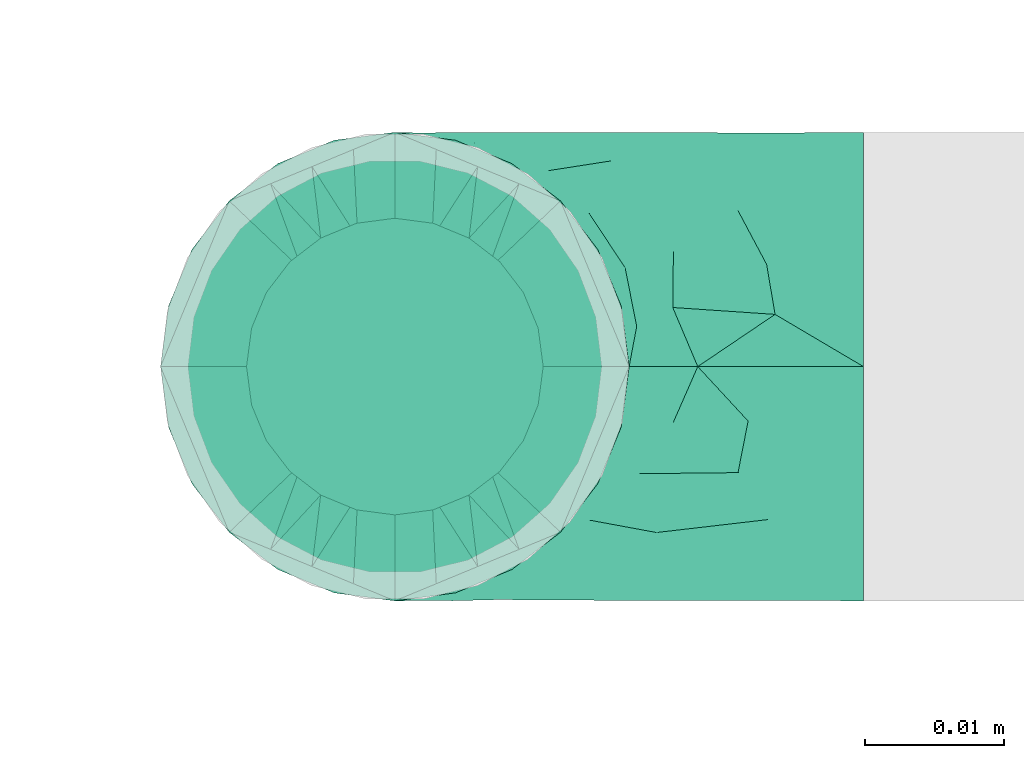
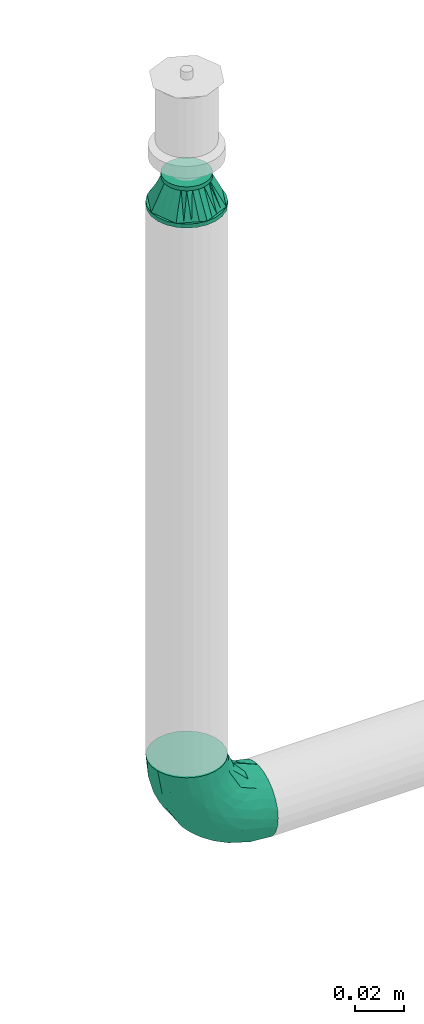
# One storey, part 83 of 157: 2 flow fittings.
"""IFC2X3 building model written with IfcOpenShell, lengths in millimetres."""

from ifc_helpers import new_model, entity, si_unit, converted_unit, derived_unit, direction, frame, origin_with_axes, place, context, subcontext, project, spatial, open_shell, surface_model, source, transform, mapped, type_object, element, save


model = new_model("IFC2X3")

# Units and contexts
model_context = context("Model", 3, precision=0.01, world=frame((0.0, 4.29681676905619e-09, 0.0)), true_north=direction((4.01073788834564e-13, 1.0)))
plan_context = context("Plan", 3, precision=0.01, world=frame((0.0, 4.29681676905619e-09, 0.0)), true_north=direction((4.01073788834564e-13, 1.0)))
body_context = subcontext(model_context, "Body", "Model", "MODEL_VIEW")
ifc_project = project(units=[converted_unit("PLANEANGLEUNIT", "DEGREE", entity("IfcPositiveLengthMeasure", 0.0174532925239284), si_unit("PLANEANGLEUNIT", "RADIAN"), dimensions=[0, 0, 0, 0, 0, 0, 0]), si_unit("AREAUNIT", "SQUARE_METRE"), si_unit("LENGTHUNIT", "METRE", prefix="MILLI"), si_unit("MASSUNIT", "GRAM", prefix="KILO"), si_unit("POWERUNIT", "WATT"), si_unit("PRESSUREUNIT", "PASCAL"), si_unit("FORCEUNIT", "NEWTON", prefix="KILO"), si_unit("ELECTRICCURRENTUNIT", "AMPERE"), si_unit("THERMODYNAMICTEMPERATUREUNIT", "DEGREE_CELSIUS"), si_unit("TIMEUNIT", "SECOND"), si_unit("VOLUMEUNIT", "CUBIC_METRE"), derived_unit("LINEARVELOCITYUNIT", [(si_unit("LENGTHUNIT", "METRE"), 1), (si_unit("TIMEUNIT", "SECOND"), -1)]), derived_unit("VOLUMETRICFLOWRATEUNIT", [(si_unit("VOLUMEUNIT", "CUBIC_METRE"), 1), (si_unit("TIMEUNIT", "SECOND"), -1)]), derived_unit("THERMALTRANSMITTANCEUNIT", [(si_unit("POWERUNIT", "WATT"), 1), (si_unit("THERMODYNAMICTEMPERATUREUNIT", "KELVIN"), -1), (si_unit("AREAUNIT", "SQUARE_METRE"), -1)])], contexts=[model_context, plan_context])

# Site, building, storey
site_placement = place(None, frame((0.0, -4.29681676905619e-09, 0.0), z_axis=(0.0, 0.0, 1.0), x_axis=(1.0, 0.0, 0.0)))
site = spatial("IfcSite", under=ifc_project, at=site_placement, CompositionType="ELEMENT")
building_placement = place(site_placement, frame((0.0, 4.29681676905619e-09, 0.0), z_axis=(0.0, 0.0, 1.0), x_axis=(1.0, 0.0, 0.0)))
building = spatial("IfcBuilding", under=site, at=building_placement, Name="mc-building", CompositionType="ELEMENT")
storey_placement = place(building_placement, frame((0.0, 0.0, 204000.0), z_axis=(0.0, 0.0, 1.0), x_axis=(1.0, 0.0, 0.0)))
storey = spatial("IfcBuildingStorey", under=building, at=storey_placement, Name="Nivå D", CompositionType="ELEMENT", Elevation=204000.0)

# Flow fittings
pipe_fitting_type_1 = type_object("IfcPipeFittingType", Name="magi_pipe_fe_elbow_short_001", PredefinedType="BEND")
shared_shape_1 = source(origin_with_axes(), body_context, "Body", "SurfaceModel", [
    surface_model("IfcShellBasedSurfaceModel", [(-33.8, 8.45, -14.63583), (-33.8, 4.37404, -16.32415), (-33.8, 11.9501, -11.9501), (-33.8, -11.9501, -11.9501), (-33.8, -14.63583, -8.45), (-33.8, -8.45, -14.63583), (-33.8, 0.0, -16.9), (-33.8, -4.37404, -16.32415), (-33.8, -4.37404, 16.32415), (-33.8, 0.0, 16.9), (-33.8, -8.45, 14.63583), (-33.8, 16.32415, -4.37404), (-33.8, 14.63583, -8.45), (-33.8, -16.32415, -4.37404), (-33.8, -16.9, 0.0), (-33.8, -16.32415, 4.37404), (-33.8, 11.9501, 11.9501), (-33.8, 14.63583, 8.45), (-33.8, 16.32415, 4.37404), (-33.8, 4.37404, 16.32415), (-33.8, 8.45, 14.63583), (-33.8, -14.63583, 8.45), (-33.8, -11.9501, 11.9501), (-33.8, 16.9, 0.0), (-11.9501, 33.8, -11.9501), (0.0, 33.8, -16.9), (-4.37404, 33.8, -16.32415), (-8.45, 33.8, -14.63583), (-14.63583, 33.8, -8.45), (-16.32415, 33.8, -4.37404), (14.63583, 33.8, -8.45), (8.45, 33.8, 14.63583), (16.32415, 33.8, -4.37404), (8.45, 33.8, -14.63583), (11.9501, 33.8, -11.9501), (4.37404, 33.8, -16.32415), (16.32415, 33.8, 4.37404), (16.9, 33.8, 0.0), (-11.9501, 33.8, 11.9501), (-16.32415, 33.8, 4.37404), (-14.63583, 33.8, 8.45), (-8.45, 33.8, 14.63583), (-4.37404, 33.8, 16.32415), (11.9501, 33.8, 11.9501), (14.63583, 33.8, 8.45), (0.0, 33.8, 16.9), (4.37404, 33.8, 16.32415), (-16.9, 33.8, 0.0), (-24.79389, -13.12945, 9.48721), (-22.19287, -9.75018, 12.59315), (-24.09897, -14.97035, 0.0), (-14.93934, -10.76256, 8.5297), (-22.46095, -14.75051, 5.27077), (14.75051, 22.46094, 5.27077), (11.9251, 13.23888, 4.33236), (13.04069, 14.39795, 0.0), (7.71387, 13.68847, 11.55891), (9.75018, 22.19287, 12.59315), (4.10169, 13.0571, 14.04018), (-24.84007, -6.39063, 15.2048), (-25.81779, -2.23879, 16.61097), (-23.66549, 2.59054, 16.87119), (-26.50418, 14.06512, 11.08152), (-24.21253, 17.66365, 7.72657), (-29.58514, 15.86957, 7.00283), (-6.17382, -7.5455, 0.0), (-13.23888, -11.9251, 4.33236), (-14.39795, -13.04069, 0.0), (-17.81434, 18.87373, 11.97104), (-6.30846, 29.15138, 15.82987), (-2.31622, 25.28002, 16.85849), (-29.23923, 10.23435, 13.77053), (-1.45439, -2.85688, 7.61475), (-0.28326, 0.34872, 10.09509), (-5.74484, -4.04709, 10.4122), (-4.41137, 11.31918, 16.59407), (-8.39727, 3.10034, 15.7812), (-1.72649, 9.1306, 15.53089), (-17.39909, 24.75344, 7.64977), (-26.19233, 20.0512, 0.0), (-28.14518, 17.29657, 4.25857), (-26.05147, 6.6281, 15.96447), (-5.87354, 16.61944, 16.86968), (-12.51807, 12.51807, 16.48937), (-10.06312, 7.38516, 16.81295), (-3.01882, 3.01882, 13.81718), (-13.0571, -4.10169, 14.04018), (-16.82553, -0.15166, 16.38038), (10.76256, 14.93934, 8.5297), (13.12945, 24.79389, 9.48721), (6.39063, 24.84007, 15.2048), (2.23879, 25.81779, 16.61097), (-13.68847, -7.71387, 11.55891), (14.97035, 24.09897, 0.0), (-7.30894, 22.89991, 16.09489), (-10.67958, 26.17414, 14.008), (-12.78295, 18.26924, 15.06066), (-13.88562, 22.45231, 12.93244), (-18.04944, 15.16501, 14.04434), (-23.11658, 20.08178, 4.02986), (-21.84989, 21.84989, 0.0), (-18.55817, 25.48277, 3.93065), (-13.95142, 26.94732, 11.03289), (-18.57098, 7.23906, 16.59756), (-16.58335, 4.14122, 16.89279), (-17.96666, 11.46709, 15.63151), (-9.84453, 17.54304, 16.18938), (0.15166, 16.82553, 16.38038), (-23.27207, 11.47201, 14.23154), (3.84842, 5.86994, 10.70473), (-8.0212, -7.54413, 7.93275), (1.00345, -2.19508, 4.57414), (5.13203, 3.01004, 5.90201), (5.24161, 1.7543, 2.53265), (8.70457, 7.04947, 3.99182), (-20.0512, 26.19233, 0.0), (8.4852, 8.76699, 7.09296), (-4.55488, -6.72064, 4.90681), (2.05031, -2.05031, 0.0), (7.5455, 6.17382, 0.0), (-26.75399, 2.1369, -16.845), (-14.61995, 24.73803, -11.27736), (-28.45274, -13.45335, -9.81895), (-26.00469, 6.63555, -15.96645), (-23.06726, 20.04573, -4.26202), (-13.80647, -4.26506, -14.17873), (-14.67501, -0.21081, -16.07388), (-6.7902, -0.2828, -13.8478), (-24.53586, 11.08096, -14.13417), (-26.72048, 14.00837, -11.05776), (10.0967, 24.44989, -12.75976), (5.83237, 21.40218, -15.03047), (6.66249, 28.54238, -15.38093), (-20.38182, 15.48705, -12.74596), (12.53268, 21.23441, -9.15363), (12.54494, 15.67504, -5.54878), (9.7522, 12.89279, -8.66343), (-15.65186, 19.64213, -13.01327), (-12.03528, 20.66498, -14.67665), (-15.61907, 15.61906, -14.83879), (-25.56551, -15.26206, 0.0), (-24.65452, -15.12934, -5.50955), (13.45335, 28.45274, -9.81895), (15.12934, 24.65452, -5.50955), (-7.35442, -8.31014, -5.65563), (-15.67504, -12.54494, -5.54878), (-24.44989, -10.0967, -12.75976), (0.16522, 0.41303, -9.71728), (-5.70658, -5.33066, -8.89288), (-5.13869, -2.37198, -11.53565), (-21.23441, -12.53268, -9.15363), (0.71146, 7.93863, -14.09382), (0.21081, 14.67501, -16.07388), (3.49291, 14.42772, -14.76381), (-24.89911, -2.13088, -16.591), (-28.54238, -6.66249, -15.38093), (-18.44386, -7.71663, -13.26957), (2.13088, 24.89911, -16.591), (-28.64342, 17.44413, -2.89318), (1.70017, -1.28722, -5.09504), (-16.57067, 26.81947, -7.36596), (-17.69055, 27.4263, -3.76405), (-12.89279, -9.7522, -8.66343), (-5.96611, 5.96611, -15.95814), (-20.53709, 20.09345, -8.28985), (-2.1369, 26.75399, -16.845), (-6.89872, 24.58781, -16.02578), (-10.60739, 26.53157, -13.98044), (-21.40218, -5.83237, -15.03047), (2.93192, 5.89627, -11.55917), (6.89393, 12.61842, -11.82233), (5.58056, 5.95325, -8.79455), (-3.99512, 18.61798, -16.89635), (8.31014, 7.35442, -5.65563), (-9.1383, 9.86148, -16.89041), (-9.99983, 16.02119, -16.39699), (-16.68576, 9.78031, -16.34199), (-27.01915, 16.61158, -7.12979), (15.26206, 25.56551, 0.0), (-18.61798, 3.99512, -16.89635), (-19.37495, 27.82495, 0.0), (-12.61842, -6.89393, -11.82233), (-18.84705, 19.14018, -10.96545)], [open_shell([[[0, 1, 2]], [[3, 4, 5]], [[6, 7, 5]], [[8, 9, 10]], [[1, 6, 2]], [[11, 12, 2]], [[4, 2, 6]], [[2, 13, 10]], [[5, 4, 6]], [[2, 4, 13]], [[14, 15, 13]], [[11, 2, 16]], [[11, 17, 18]], [[11, 16, 17]], [[19, 20, 16]], [[16, 2, 10]], [[19, 16, 10]], [[21, 22, 15]], [[22, 13, 15]], [[22, 10, 13]], [[10, 9, 19]], [[11, 18, 23]], [[24, 25, 26]], [[24, 26, 27]], [[24, 28, 29]], [[25, 24, 30]], [[31, 32, 24]], [[33, 30, 34]], [[33, 35, 25]], [[25, 30, 33]], [[32, 30, 24]], [[32, 36, 37]], [[38, 24, 29]], [[39, 40, 29]], [[40, 38, 29]], [[38, 41, 42]], [[38, 31, 24]], [[31, 38, 42]], [[36, 43, 44]], [[36, 32, 43]], [[31, 45, 46]], [[32, 31, 43]], [[42, 45, 31]], [[39, 29, 47]], [[22, 48, 49]], [[15, 14, 50]], [[51, 48, 52]], [[53, 54, 55]], [[48, 22, 21]], [[15, 52, 21]], [[56, 57, 58]], [[49, 10, 22]], [[49, 59, 10]], [[9, 60, 61]], [[62, 63, 64]], [[65, 66, 67]], [[57, 43, 31]], [[62, 68, 63]], [[42, 69, 70]], [[20, 71, 16]], [[8, 60, 9]], [[72, 73, 74]], [[75, 76, 77]], [[16, 62, 17]], [[40, 39, 78]], [[79, 23, 80]], [[64, 18, 17]], [[9, 61, 19]], [[19, 81, 20]], [[82, 83, 84]], [[74, 85, 86]], [[59, 86, 87]], [[88, 89, 57]], [[90, 31, 46]], [[44, 53, 36]], [[46, 45, 91]], [[54, 53, 88]], [[44, 89, 53]], [[92, 86, 49]], [[89, 44, 43]], [[10, 59, 8]], [[53, 55, 93]], [[93, 36, 53]], [[66, 52, 67]], [[94, 82, 70]], [[95, 96, 94]], [[97, 98, 96]], [[79, 99, 100]], [[41, 38, 95]], [[101, 100, 99]], [[68, 78, 63]], [[42, 41, 69]], [[23, 18, 80]], [[95, 94, 69]], [[78, 101, 99]], [[38, 102, 95]], [[70, 45, 42]], [[97, 95, 102]], [[15, 50, 52]], [[90, 57, 31]], [[57, 90, 58]], [[81, 19, 61]], [[103, 104, 84]], [[105, 81, 103]], [[38, 40, 102]], [[106, 96, 83]], [[94, 106, 82]], [[91, 70, 107]], [[71, 62, 16]], [[62, 108, 98]], [[86, 59, 49]], [[67, 52, 50]], [[60, 59, 87]], [[92, 49, 51]], [[86, 85, 76]], [[91, 90, 46]], [[37, 36, 93]], [[107, 77, 58]], [[107, 58, 90]], [[58, 85, 109]], [[110, 74, 92]], [[72, 74, 110]], [[66, 51, 52]], [[72, 111, 112]], [[113, 114, 112]], [[56, 88, 57]], [[52, 48, 21]], [[49, 48, 51]], [[57, 89, 43]], [[53, 89, 88]], [[103, 81, 61]], [[71, 81, 108]], [[18, 64, 80]], [[63, 78, 99]], [[47, 115, 101]], [[101, 115, 100]], [[40, 78, 102]], [[68, 102, 78]], [[97, 96, 95]], [[105, 98, 108]], [[103, 84, 83]], [[107, 70, 82]], [[76, 84, 87]], [[82, 84, 75]], [[70, 91, 45]], [[90, 91, 107]], [[59, 60, 8]], [[61, 60, 87]], [[73, 85, 74]], [[109, 112, 116]], [[103, 61, 104]], [[105, 103, 83]], [[96, 105, 83]], [[81, 105, 108]], [[96, 98, 105]], [[62, 98, 68]], [[61, 87, 104]], [[87, 84, 104]], [[86, 76, 87]], [[77, 76, 85]], [[58, 77, 85]], [[75, 77, 107]], [[82, 75, 107]], [[76, 75, 84]], [[81, 71, 20]], [[62, 71, 108]], [[95, 69, 41]], [[70, 69, 94]], [[62, 64, 17]], [[80, 63, 99]], [[63, 80, 64]], [[80, 99, 79]], [[66, 65, 117]], [[110, 66, 117]], [[112, 114, 116]], [[118, 117, 65]], [[110, 92, 51]], [[112, 111, 113]], [[119, 55, 54]], [[74, 86, 92]], [[58, 109, 56]], [[116, 56, 109]], [[66, 110, 51]], [[72, 110, 117]], [[111, 72, 117]], [[73, 112, 109]], [[117, 118, 111]], [[113, 111, 118]], [[118, 119, 113]], [[114, 119, 54]], [[119, 114, 113]], [[116, 54, 88]], [[54, 116, 114]], [[116, 88, 56]], [[112, 73, 72]], [[85, 73, 109]], [[78, 39, 101]], [[47, 101, 39]], [[102, 68, 97]], [[97, 68, 98]], [[82, 106, 83]], [[94, 96, 106]], [[1, 120, 6]], [[28, 24, 121]], [[3, 122, 4]], [[0, 123, 1]], [[100, 124, 79]], [[125, 126, 127]], [[128, 2, 129]], [[130, 131, 132]], [[128, 129, 133]], [[134, 135, 136]], [[137, 138, 139]], [[128, 0, 2]], [[67, 140, 141]], [[134, 142, 143]], [[141, 13, 4]], [[144, 65, 145]], [[146, 3, 5]], [[147, 148, 149]], [[145, 141, 150]], [[151, 152, 153]], [[154, 7, 6]], [[5, 155, 146]], [[150, 146, 156]], [[155, 5, 7]], [[143, 135, 134]], [[35, 157, 25]], [[23, 79, 158]], [[148, 159, 144]], [[160, 161, 29]], [[145, 162, 144]], [[163, 152, 151]], [[29, 28, 160]], [[121, 164, 160]], [[33, 34, 130]], [[25, 165, 26]], [[26, 165, 166]], [[142, 34, 30]], [[24, 27, 167]], [[124, 161, 164]], [[157, 35, 132]], [[155, 154, 168]], [[123, 0, 128]], [[169, 170, 171]], [[172, 157, 152]], [[26, 166, 27]], [[132, 35, 33]], [[142, 130, 34]], [[168, 154, 126]], [[136, 135, 173]], [[133, 137, 139]], [[2, 12, 129]], [[170, 131, 130]], [[30, 32, 143]], [[172, 174, 175]], [[176, 123, 128]], [[158, 177, 11]], [[135, 55, 119]], [[167, 27, 166]], [[175, 166, 172]], [[137, 167, 138]], [[122, 141, 4]], [[140, 14, 13]], [[32, 37, 178]], [[170, 130, 134]], [[152, 157, 131]], [[165, 157, 172]], [[153, 170, 151]], [[152, 163, 174]], [[168, 125, 156]], [[122, 146, 150]], [[120, 154, 6]], [[179, 174, 126]], [[179, 126, 154]], [[126, 163, 127]], [[162, 145, 150]], [[140, 13, 141]], [[32, 178, 143]], [[55, 143, 178]], [[177, 129, 12]], [[128, 133, 139]], [[176, 128, 139]], [[120, 123, 179]], [[121, 160, 28]], [[161, 100, 180]], [[166, 175, 138]], [[121, 24, 167]], [[161, 47, 29]], [[79, 124, 158]], [[124, 164, 177]], [[161, 124, 100]], [[136, 171, 170]], [[127, 163, 151]], [[147, 171, 159]], [[148, 144, 162]], [[127, 151, 169]], [[127, 181, 125]], [[129, 177, 164]], [[12, 11, 177]], [[159, 65, 144]], [[67, 141, 145]], [[143, 55, 135]], [[135, 119, 173]], [[123, 120, 1]], [[154, 120, 179]], [[157, 165, 25]], [[166, 165, 172]], [[172, 152, 174]], [[176, 139, 175]], [[126, 174, 163]], [[176, 174, 179]], [[174, 176, 175]], [[123, 176, 179]], [[150, 181, 162]], [[127, 149, 181]], [[181, 148, 162]], [[159, 148, 147]], [[171, 136, 173]], [[170, 134, 136]], [[159, 171, 173]], [[171, 147, 169]], [[169, 147, 149]], [[151, 170, 169]], [[164, 182, 129]], [[182, 121, 137]], [[181, 149, 148]], [[169, 149, 127]], [[182, 137, 133]], [[167, 137, 121]], [[166, 138, 167]], [[175, 139, 138]], [[129, 182, 133]], [[121, 182, 164]], [[161, 160, 164]], [[47, 161, 180]], [[177, 158, 124]], [[23, 158, 11]], [[130, 132, 33]], [[157, 132, 131]], [[143, 142, 30]], [[130, 142, 134]], [[154, 155, 7]], [[146, 155, 168]], [[146, 122, 3]], [[141, 122, 150]], [[152, 131, 153]], [[159, 119, 118]], [[67, 145, 65]], [[170, 153, 131]], [[119, 159, 173]], [[159, 118, 65]], [[156, 125, 181]], [[126, 125, 168]], [[150, 156, 181]], [[168, 156, 146]]])]),
])
flow_fitting_1_placement = place(storey_placement, frame((522835.35, 413944.735, 2690.0), z_axis=(0.0, -1.0, 0.0), x_axis=(0.0, 0.0, -1.0)))
element("IfcFlowFitting", 1, at=flow_fitting_1_placement, inside=storey, type_object=pipe_fitting_type_1, Name="magi_pipe_fe_elbow_short_001", context=body_context, shape_type="MappedRepresentation", body=[
    mapped(shared_shape_1, transform((0.0, 0.0, 0.0), scale=1.0)),
])
pipe_fitting_type_2 = type_object("IfcPipeFittingType", Name="magi_pipe_fe_reducer_centric_short_NOR", PredefinedType="TRANSITION")
shared_shape_2 = source(origin_with_axes(), body_context, "Body", "SurfaceModel", [
    surface_model("IfcShellBasedSurfaceModel", [(-2.0, -7.56604, -7.56604), (-2.0, -10.33541, -2.76936), (-2.0, -5.35, -9.26647), (-2.0, 5.35, -9.26647), (-2.0, 10.33541, -2.76936), (-2.0, 7.56604, -7.56604), (12.4, 11.9501, 11.9501), (12.4, 0.0, 16.9), (12.4, 11.9501, -11.9501), (12.4, 16.9, 0.0), (0.0, -10.7, 0.0), (0.0, -5.35, 9.26647), (0.0, -5.35, -9.26647), (0.0, 10.7, 0.0), (12.4, 15.66253, -2.98753), (12.4, 8.96258, -13.18758), (0.0, 6.6875, -6.94985), (12.4, -15.66253, -2.98753), (12.4, -16.9, 0.0), (12.4, 5.97505, -14.42505), (0.0, 5.35, -9.26647), (12.4, 14.42505, -5.97505), (0.0, 8.025, -4.63324), (0.0, 9.3625, -2.31662), (0.0, -9.3625, -2.31662), (0.0, -8.025, -4.63324), (12.4, -14.42505, -5.97505), (12.4, 13.18758, -8.96258), (12.4, -13.18758, -8.96258), (12.4, -11.9501, -11.9501), (0.0, -6.6875, -6.94985), (12.4, -8.96258, -13.18758), (12.4, -5.97505, -14.42505), (12.4, -15.66253, 2.98753), (12.4, -8.96258, 13.18758), (0.0, -6.6875, 6.94985), (12.4, -11.9501, 11.9501), (12.4, 15.66253, 2.98753), (12.4, -5.97505, 14.42505), (12.4, -14.42505, 5.97505), (0.0, -8.025, 4.63324), (0.0, -9.3625, 2.31662), (0.0, 9.3625, 2.31662), (0.0, 8.025, 4.63324), (12.4, 14.42505, 5.97505), (12.4, -13.18758, 8.96258), (12.4, 13.18758, 8.96258), (0.0, 6.6875, 6.94985), (12.4, 8.96258, 13.18758), (0.0, 5.35, 9.26647), (12.4, 5.97505, 14.42505), (14.4, 4.37404, -16.32415), (14.4, 8.45, -14.63583), (14.4, 11.9501, -11.9501), (14.4, -8.45, -14.63583), (14.4, 16.32415, -4.37404), (14.4, 16.32415, 4.37404), (14.4, 14.63583, -8.45), (14.4, 0.0, -16.9), (14.4, -4.37404, -16.32415), (14.4, -11.9501, -11.9501), (14.4, -16.32415, -4.37404), (14.4, -14.63583, -8.45), (14.4, -16.32415, 4.37404), (14.4, 16.9, 0.0), (14.4, 14.63583, 8.45), (14.4, 11.9501, 11.9501), (14.4, 4.37404, 16.32415), (14.4, 8.45, 14.63583), (14.4, 0.0, 16.9), (14.4, -14.63583, 8.45), (14.4, -16.9, 0.0), (14.4, -8.45, 14.63583), (14.4, -11.9501, 11.9501), (14.4, -4.37404, 16.32415), (12.4, 4.37404, 16.32415), (12.4, -14.63583, 8.45), (12.4, 16.32415, 4.37404), (12.4, 8.45, 14.63583), (12.4, 14.63583, 8.45), (12.4, -8.45, 14.63583), (12.4, -4.37404, 16.32415), (12.4, -16.32415, 4.37404), (12.4, -16.32415, -4.37404), (12.4, -8.45, -14.63583), (12.4, 16.32415, -4.37404), (12.4, 14.63583, -8.45), (12.4, 8.45, -14.63583), (12.4, 4.37404, -16.32415), (12.4, 0.0, -16.9), (12.4, -14.63583, -8.45), (12.4, -4.37404, -16.32415), (-2.0, 2.76936, 10.33541), (-2.0, 0.0, 10.7), (-2.0, 5.35, 9.26647), (-2.0, 7.56604, 7.56604), (-2.0, 9.26647, 5.35), (-2.0, 10.33541, 2.76936), (-2.0, -10.33541, 2.76936), (-2.0, -2.76936, 10.33541), (-2.0, -7.56604, 7.56604), (-2.0, -5.35, 9.26647), (-2.0, -9.26647, 5.35), (-2.0, -10.7, 0.0), (-2.0, 9.26647, -5.35), (-2.0, 2.76936, -10.33541), (-2.0, -9.26647, -5.35), (-2.0, 0.0, -10.7), (-2.0, -2.76936, -10.33541), (-2.0, 10.7, 0.0), (0.0, 0.0, -10.7), (0.0, 2.76936, -10.33541), (0.0, 10.33541, -2.76936), (0.0, 7.56604, -7.56604), (0.0, -10.33541, -2.76936), (0.0, 9.26647, -5.35), (0.0, 0.0, 10.7), (0.0, -2.76936, -10.33541), (0.0, -7.56604, -7.56604), (0.0, -9.26647, -5.35), (0.0, 10.33541, 2.76936), (0.0, 9.26647, 5.35), (0.0, 7.56604, 7.56604), (0.0, 2.76936, 10.33541), (0.0, -7.56604, 7.56604), (0.0, -10.33541, 2.76936), (0.0, -9.26647, 5.35), (0.0, -2.76936, 10.33541), (0.0, 2.675, -9.26647), (0.0, -2.675, -9.26647), (12.4, 2.98753, -15.66253), (0.0, 0.0, -9.26647), (12.4, -2.98753, -15.66253), (0.0, -2.675, 9.26647), (0.0, 2.675, 9.26647), (12.4, -2.98753, 15.66253), (0.0, 0.0, 9.26647), (12.4, 2.98753, 15.66253)], [open_shell([[[0, 1, 2]], [[3, 4, 5]], [[6, 7, 8]], [[8, 9, 6]], [[10, 11, 12]], [[13, 9, 14]], [[15, 16, 8]], [[17, 18, 10]], [[15, 19, 20]], [[21, 22, 23]], [[24, 25, 26]], [[22, 21, 27]], [[28, 26, 25]], [[29, 30, 31]], [[12, 32, 31]], [[10, 18, 33]], [[34, 35, 36]], [[37, 9, 13]], [[34, 38, 11]], [[39, 40, 41]], [[42, 43, 44]], [[40, 39, 45]], [[46, 44, 43]], [[6, 47, 48]], [[49, 50, 48]], [[51, 52, 53]], [[54, 51, 53]], [[53, 55, 56]], [[55, 53, 57]], [[53, 56, 54]], [[58, 54, 59]], [[58, 51, 54]], [[60, 61, 62]], [[61, 60, 54]], [[54, 63, 61]], [[56, 55, 64]], [[56, 65, 66]], [[56, 66, 67]], [[67, 63, 54]], [[67, 66, 68]], [[63, 67, 69]], [[69, 70, 63]], [[71, 61, 63]], [[70, 72, 73]], [[70, 69, 72]], [[72, 69, 74]], [[54, 56, 67]], [[75, 76, 7]], [[77, 75, 78]], [[6, 79, 77]], [[6, 77, 78]], [[76, 75, 77]], [[80, 76, 36]], [[80, 81, 7]], [[7, 76, 80]], [[82, 76, 77]], [[82, 83, 18]], [[82, 77, 84]], [[77, 85, 8]], [[8, 85, 86]], [[8, 87, 88]], [[84, 77, 8]], [[88, 89, 8]], [[83, 29, 90]], [[29, 83, 84]], [[84, 89, 91]], [[83, 82, 84]], [[8, 89, 84]], [[85, 77, 9]], [[83, 61, 18]], [[90, 62, 83]], [[54, 29, 84]], [[90, 29, 60]], [[59, 84, 91]], [[83, 62, 61]], [[61, 71, 18]], [[59, 54, 84]], [[60, 29, 54]], [[60, 62, 90]], [[58, 59, 91]], [[91, 89, 58]], [[88, 51, 89]], [[87, 52, 88]], [[57, 8, 86]], [[87, 8, 53]], [[55, 86, 85]], [[87, 53, 52]], [[52, 51, 88]], [[64, 55, 85]], [[57, 86, 55]], [[57, 53, 8]], [[9, 64, 85]], [[89, 51, 58]], [[77, 56, 9]], [[79, 65, 77]], [[68, 6, 78]], [[79, 6, 66]], [[67, 78, 75]], [[77, 65, 56]], [[56, 64, 9]], [[67, 68, 78]], [[66, 6, 68]], [[66, 65, 79]], [[69, 67, 75]], [[75, 7, 69]], [[81, 74, 7]], [[80, 72, 81]], [[70, 36, 76]], [[80, 36, 73]], [[63, 76, 82]], [[80, 73, 72]], [[72, 74, 81]], [[71, 63, 82]], [[70, 76, 63]], [[70, 73, 36]], [[18, 71, 82]], [[7, 74, 69]], [[92, 1, 93]], [[94, 1, 92]], [[95, 96, 97]], [[95, 97, 94]], [[98, 93, 1]], [[99, 100, 101]], [[99, 93, 100]], [[100, 98, 102]], [[93, 98, 100]], [[98, 1, 103]], [[94, 97, 1]], [[1, 97, 4]], [[5, 4, 104]], [[4, 3, 1]], [[105, 1, 3]], [[1, 0, 106]], [[2, 107, 108]], [[2, 1, 105]], [[105, 107, 2]], [[4, 97, 109]], [[20, 110, 111]], [[112, 20, 113]], [[114, 20, 112]], [[112, 113, 115]], [[116, 114, 112]], [[110, 12, 117]], [[110, 20, 12]], [[118, 114, 119]], [[114, 118, 12]], [[20, 114, 12]], [[112, 13, 120]], [[120, 121, 122]], [[120, 122, 123]], [[116, 112, 123]], [[123, 122, 49]], [[116, 124, 114]], [[125, 124, 126]], [[10, 114, 125]], [[124, 127, 11]], [[125, 114, 124]], [[127, 124, 116]], [[123, 112, 120]], [[1, 114, 103]], [[106, 119, 1]], [[12, 0, 2]], [[106, 0, 118]], [[117, 2, 108]], [[1, 119, 114]], [[114, 10, 103]], [[117, 12, 2]], [[118, 0, 12]], [[118, 119, 106]], [[110, 117, 108]], [[108, 107, 110]], [[105, 111, 107]], [[3, 20, 105]], [[115, 5, 104]], [[3, 5, 113]], [[112, 104, 4]], [[3, 113, 20]], [[20, 111, 105]], [[13, 112, 4]], [[115, 104, 112]], [[115, 113, 5]], [[109, 13, 4]], [[107, 111, 110]], [[97, 120, 109]], [[96, 121, 97]], [[49, 95, 94]], [[96, 95, 122]], [[123, 94, 92]], [[97, 121, 120]], [[120, 13, 109]], [[123, 49, 94]], [[122, 95, 49]], [[122, 121, 96]], [[116, 123, 92]], [[92, 93, 116]], [[99, 127, 93]], [[101, 11, 99]], [[126, 100, 102]], [[101, 100, 124]], [[125, 102, 98]], [[101, 124, 11]], [[11, 127, 99]], [[10, 125, 98]], [[126, 102, 125]], [[126, 124, 100]], [[103, 10, 98]], [[93, 127, 116]], [[18, 7, 36]], [[18, 29, 8]], [[89, 8, 29]], [[18, 8, 7]], [[13, 11, 49]], [[13, 20, 12]], [[13, 12, 11]], [[24, 26, 17]], [[10, 24, 17]], [[16, 15, 20]], [[30, 12, 31]], [[23, 14, 21]], [[19, 128, 20]], [[27, 8, 16]], [[32, 12, 129]], [[30, 28, 25]], [[130, 131, 128]], [[129, 132, 32]], [[16, 22, 27]], [[13, 14, 23]], [[128, 19, 130]], [[130, 89, 131]], [[131, 132, 129]], [[89, 132, 131]], [[28, 30, 29]], [[42, 44, 37]], [[13, 42, 37]], [[35, 34, 11]], [[47, 49, 48]], [[41, 33, 39]], [[38, 133, 11]], [[45, 36, 35]], [[50, 49, 134]], [[47, 46, 43]], [[135, 136, 133]], [[134, 137, 50]], [[35, 40, 45]], [[10, 33, 41]], [[133, 38, 135]], [[135, 7, 136]], [[136, 137, 134]], [[7, 137, 136]], [[46, 47, 6]]])]),
])
flow_fitting_2_placement = place(storey_placement, frame((522835.35, 413944.735, 3014.54800000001), z_axis=(0.0, 1.0, 0.0), x_axis=(0.0, 0.0, -1.0)))
element("IfcFlowFitting", 2, at=flow_fitting_2_placement, inside=storey, type_object=pipe_fitting_type_2, Name="magi_pipe_fe_reducer_centric_short_NOR", context=body_context, shape_type="MappedRepresentation", body=[
    mapped(shared_shape_2, transform((0.0, 0.0, 0.0), scale=1.0)),
])

save(model, "model.ifc")
